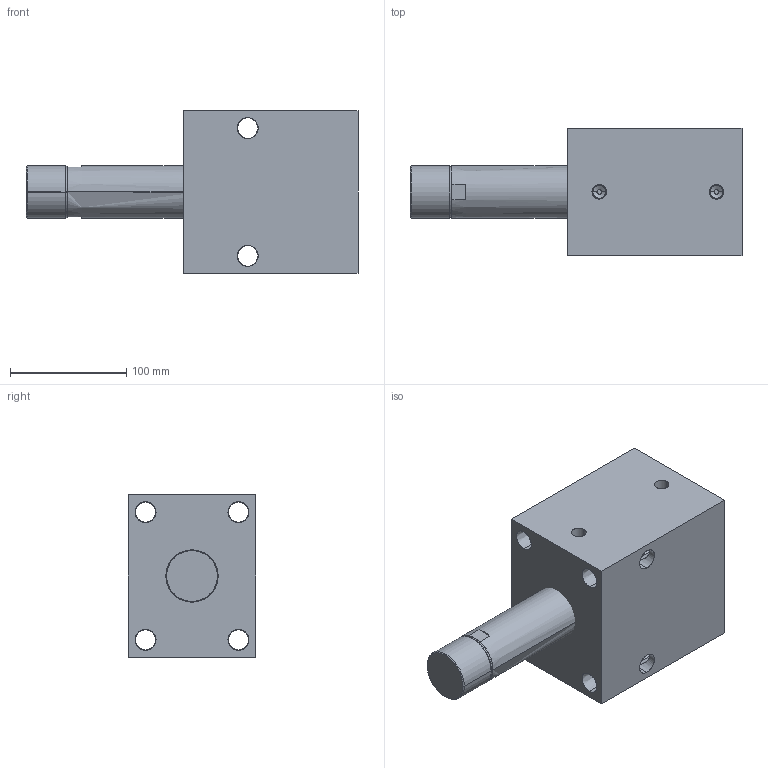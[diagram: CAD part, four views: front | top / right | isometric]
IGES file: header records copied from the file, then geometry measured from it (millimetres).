
Start section: SolidWorks IGES file using analytic representation for surfaces
Global section: file name: C:\Documents and Settings\rajib\Desktop\Rajib\BLOCK CYLINDER HYDRAULIC\0701-0704\IGS 0701-0708\0707.IGS; native system: SolidWorks 2007; preprocessor: SolidWorks 2007; author: rajib; date: 110121.161110; units: millimetre
Bounding box: 286 x 110 x 140 mm (x, y, z)
Surface area: 170501.6 mm2 (no closed solid volume)
Topology: 0 solids, 0 shells, 76 faces, 1856 edges, 1856 vertices
Faces by surface type: revolution 54, bspline 22
